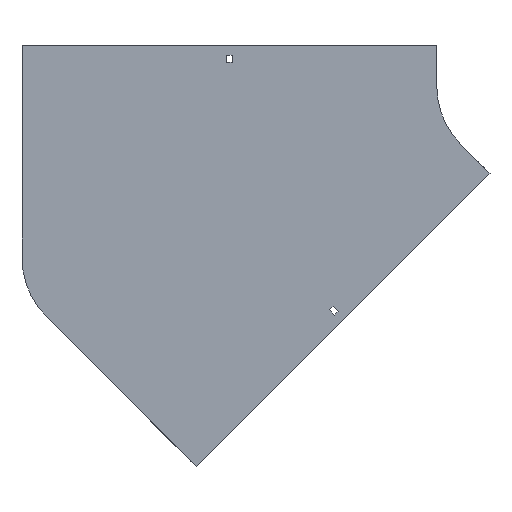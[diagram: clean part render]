
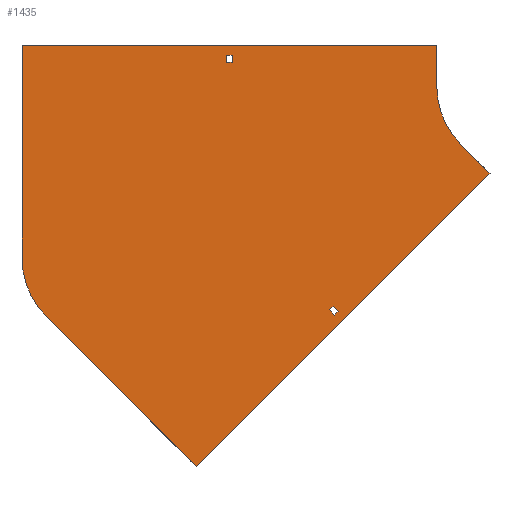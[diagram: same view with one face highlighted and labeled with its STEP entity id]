
A CAD part, front view. The second image highlights one B-rep face of the part: STEP entity #1435.
In plain terms, the highlighted planar face has unit normal (0, -1, 0).
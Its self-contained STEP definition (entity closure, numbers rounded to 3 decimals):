
#12 = DIRECTION ( 'NONE',  ( 1., 0., 0. ) ) ;
#17 = ORIENTED_EDGE ( 'NONE', *, *, #994, .F. ) ;
#18 = CARTESIAN_POINT ( 'NONE',  ( -604., 0., -208.764 ) ) ;
#50 = CARTESIAN_POINT ( 'NONE',  ( -226.097, 0., -267.11 ) ) ;
#52 = AXIS2_PLACEMENT_3D ( 'NONE', #1752, #985, #237 ) ;
#63 = EDGE_CURVE ( 'NONE', #781, #140, #623, .T. ) ;
#96 = CARTESIAN_POINT ( 'NONE',  ( -604., 0., 50. ) ) ;
#116 = CARTESIAN_POINT ( 'NONE',  ( -224.33, 0., -278.07 ) ) ;
#128 = DIRECTION ( 'NONE',  ( 0., 1., 0. ) ) ;
#132 = CARTESIAN_POINT ( 'NONE',  ( -35.355, 0., -106.066 ) ) ;
#140 = VERTEX_POINT ( 'NONE', #456 ) ;
#156 = VECTOR ( 'NONE', #1891, 1000. ) ;
#167 = EDGE_CURVE ( 'NONE', #857, #1871, #1730, .T. ) ;
#171 = CARTESIAN_POINT ( 'NONE',  ( -70.711, 0., -70.711 ) ) ;
#173 = DIRECTION ( 'NONE',  ( 0., 0., 1. ) ) ;
#210 = VECTOR ( 'NONE', #1613, 1000. ) ;
#214 = VERTEX_POINT ( 'NONE', #513 ) ;
#224 = CARTESIAN_POINT ( 'NONE',  ( -100., 0., 50. ) ) ;
#237 = DIRECTION ( 'NONE',  ( 0., 0., -1. ) ) ;
#251 = LINE ( 'NONE', #1735, #156 ) ;
#274 = ORIENTED_EDGE ( 'NONE', *, *, #1476, .F. ) ;
#276 = ORIENTED_EDGE ( 'NONE', *, *, #307, .F. ) ;
#307 = EDGE_CURVE ( 'NONE', #1333, #857, #611, .T. ) ;
#316 = CARTESIAN_POINT ( 'NONE',  ( -604., 0., -208.764 ) ) ;
#353 = EDGE_CURVE ( 'NONE', #1756, #1333, #933, .T. ) ;
#359 = VERTEX_POINT ( 'NONE', #116 ) ;
#367 = CIRCLE ( 'NONE', #1197, 100. ) ;
#392 = VECTOR ( 'NONE', #1459, 1000. ) ;
#417 = EDGE_CURVE ( 'NONE', #1803, #1204, #1751, .T. ) ;
#421 = ORIENTED_EDGE ( 'NONE', *, *, #1368, .T. ) ;
#432 = VECTOR ( 'NONE', #794, 1000. ) ;
#438 = ORIENTED_EDGE ( 'NONE', *, *, #1496, .F. ) ;
#440 = LINE ( 'NONE', #1490, #392 ) ;
#454 = EDGE_CURVE ( 'NONE', #1073, #1457, #628, .T. ) ;
#456 = CARTESIAN_POINT ( 'NONE',  ( -348.75, 0., 38. ) ) ;
#478 = ORIENTED_EDGE ( 'NONE', *, *, #63, .T. ) ;
#482 = ORIENTED_EDGE ( 'NONE', *, *, #1821, .F. ) ;
#500 = EDGE_CURVE ( 'NONE', #214, #1803, #367, .T. ) ;
#503 = CARTESIAN_POINT ( 'NONE',  ( -100., 0., 50. ) ) ;
#509 = CARTESIAN_POINT ( 'NONE',  ( 0., 0., 0. ) ) ;
#513 = CARTESIAN_POINT ( 'NONE',  ( -100., 0., 0. ) ) ;
#516 = ORIENTED_EDGE ( 'NONE', *, *, #417, .F. ) ;
#527 = ORIENTED_EDGE ( 'NONE', *, *, #454, .F. ) ;
#536 = FACE_OUTER_BOUND ( 'NONE', #620, .T. ) ;
#555 = VECTOR ( 'NONE', #1334, 1000. ) ;
#568 = EDGE_CURVE ( 'NONE', #1612, #618, #792, .T. ) ;
#582 = ORIENTED_EDGE ( 'NONE', *, *, #1058, .T. ) ;
#609 = CARTESIAN_POINT ( 'NONE',  ( -355.25, 0., 38. ) ) ;
#611 = LINE ( 'NONE', #18, #555 ) ;
#618 = VERTEX_POINT ( 'NONE', #1433 ) ;
#620 = EDGE_LOOP ( 'NONE', ( #1130, #276, #718, #274, #482, #516, #1624, #438 ) ) ;
#623 = LINE ( 'NONE', #1230, #764 ) ;
#628 = LINE ( 'NONE', #50, #1415 ) ;
#644 = EDGE_CURVE ( 'NONE', #359, #1073, #1456, .T. ) ;
#657 = DIRECTION ( 'NONE',  ( 0., -1., 0. ) ) ;
#672 = CARTESIAN_POINT ( 'NONE',  ( -70.711, 0., -70.711 ) ) ;
#691 = LINE ( 'NONE', #1304, #1318 ) ;
#710 = VECTOR ( 'NONE', #1114, 1000. ) ;
#717 = VECTOR ( 'NONE', #767, 1000. ) ;
#718 = ORIENTED_EDGE ( 'NONE', *, *, #353, .F. ) ;
#740 = VECTOR ( 'NONE', #1135, 1000. ) ;
#742 = CARTESIAN_POINT ( 'NONE',  ( -348.75, 0., 29. ) ) ;
#764 = VECTOR ( 'NONE', #12, 1000. ) ;
#767 = DIRECTION ( 'NONE',  ( 0.707, 0., -0.707 ) ) ;
#781 = VERTEX_POINT ( 'NONE', #609 ) ;
#788 = LINE ( 'NONE', #1524, #833 ) ;
#792 = LINE ( 'NONE', #1402, #1667 ) ;
#794 = DIRECTION ( 'NONE',  ( 1., 0., 0. ) ) ;
#822 = CARTESIAN_POINT ( 'NONE',  ( -348.75, 0., 29. ) ) ;
#833 = VECTOR ( 'NONE', #173, 1000. ) ;
#857 = VERTEX_POINT ( 'NONE', #1683 ) ;
#924 = DIRECTION ( 'NONE',  ( 0., 0., -1. ) ) ;
#932 = DIRECTION ( 'NONE',  ( -0.707, 0., 0.707 ) ) ;
#933 = CIRCLE ( 'NONE', #1762, 100. ) ;
#950 = CARTESIAN_POINT ( 'NONE',  ( -35.355, 0., -106.066 ) ) ;
#985 = DIRECTION ( 'NONE',  ( 0., -1., 0. ) ) ;
#994 = EDGE_CURVE ( 'NONE', #1215, #359, #251, .T. ) ;
#1058 = EDGE_CURVE ( 'NONE', #140, #1612, #1120, .T. ) ;
#1073 = VERTEX_POINT ( 'NONE', #1882 ) ;
#1114 = DIRECTION ( 'NONE',  ( 0., 0., -1. ) ) ;
#1120 = LINE ( 'NONE', #822, #1261 ) ;
#1130 = ORIENTED_EDGE ( 'NONE', *, *, #167, .F. ) ;
#1135 = DIRECTION ( 'NONE',  ( -0.707, 0., -0.707 ) ) ;
#1139 = EDGE_LOOP ( 'NONE', ( #421, #478, #582, #1203 ) ) ;
#1197 = AXIS2_PLACEMENT_3D ( 'NONE', #509, #657, #924 ) ;
#1203 = ORIENTED_EDGE ( 'NONE', *, *, #568, .T. ) ;
#1204 = VERTEX_POINT ( 'NONE', #132 ) ;
#1215 = VERTEX_POINT ( 'NONE', #1367 ) ;
#1218 = ORIENTED_EDGE ( 'NONE', *, *, #644, .F. ) ;
#1230 = CARTESIAN_POINT ( 'NONE',  ( -355.25, 0., 38. ) ) ;
#1261 = VECTOR ( 'NONE', #1913, 1000. ) ;
#1292 = CARTESIAN_POINT ( 'NONE',  ( -226.097, 0., -267.11 ) ) ;
#1304 = CARTESIAN_POINT ( 'NONE',  ( -391.737, 0., -462.448 ) ) ;
#1318 = VECTOR ( 'NONE', #1898, 1000. ) ;
#1333 = VERTEX_POINT ( 'NONE', #316 ) ;
#1334 = DIRECTION ( 'NONE',  ( 0., 0., 1. ) ) ;
#1367 = CARTESIAN_POINT ( 'NONE',  ( -230.694, 0., -271.706 ) ) ;
#1368 = EDGE_CURVE ( 'NONE', #618, #781, #788, .T. ) ;
#1402 = CARTESIAN_POINT ( 'NONE',  ( -355.25, 0., 29. ) ) ;
#1415 = VECTOR ( 'NONE', #932, 1000. ) ;
#1421 = EDGE_LOOP ( 'NONE', ( #1218, #17, #1525, #527 ) ) ;
#1433 = CARTESIAN_POINT ( 'NONE',  ( -355.25, 0., 29. ) ) ;
#1435 = ADVANCED_FACE ( 'NONE', ( #1571, #536, #1591 ), #1740, .T. ) ;
#1444 = DIRECTION ( 'NONE',  ( -1., 0., 0. ) ) ;
#1456 = LINE ( 'NONE', #1884, #210 ) ;
#1457 = VERTEX_POINT ( 'NONE', #1292 ) ;
#1459 = DIRECTION ( 'NONE',  ( -0.707, 0., -0.707 ) ) ;
#1476 = EDGE_CURVE ( 'NONE', #1727, #1756, #691, .T. ) ;
#1490 = CARTESIAN_POINT ( 'NONE',  ( -230.694, 0., -271.706 ) ) ;
#1496 = EDGE_CURVE ( 'NONE', #1871, #214, #1605, .T. ) ;
#1524 = CARTESIAN_POINT ( 'NONE',  ( -355.25, 0., 29. ) ) ;
#1525 = ORIENTED_EDGE ( 'NONE', *, *, #1561, .F. ) ;
#1561 = EDGE_CURVE ( 'NONE', #1457, #1215, #440, .T. ) ;
#1571 = FACE_BOUND ( 'NONE', #1139, .T. ) ;
#1591 = FACE_BOUND ( 'NONE', #1421, .T. ) ;
#1596 = CARTESIAN_POINT ( 'NONE',  ( -391.737, 0., -462.448 ) ) ;
#1605 = LINE ( 'NONE', #503, #710 ) ;
#1612 = VERTEX_POINT ( 'NONE', #742 ) ;
#1613 = DIRECTION ( 'NONE',  ( 0.707, 0., 0.707 ) ) ;
#1615 = CARTESIAN_POINT ( 'NONE',  ( -504., 0., -208.764 ) ) ;
#1624 = ORIENTED_EDGE ( 'NONE', *, *, #500, .F. ) ;
#1667 = VECTOR ( 'NONE', #1444, 1000. ) ;
#1673 = DIRECTION ( 'NONE',  ( 0., 0., 1. ) ) ;
#1683 = CARTESIAN_POINT ( 'NONE',  ( -604., 0., 50. ) ) ;
#1716 = LINE ( 'NONE', #950, #740 ) ;
#1727 = VERTEX_POINT ( 'NONE', #1596 ) ;
#1730 = LINE ( 'NONE', #96, #432 ) ;
#1733 = CARTESIAN_POINT ( 'NONE',  ( -574.711, 0., -279.474 ) ) ;
#1735 = CARTESIAN_POINT ( 'NONE',  ( -230.694, 0., -271.706 ) ) ;
#1740 = PLANE ( 'NONE',  #52 ) ;
#1751 = LINE ( 'NONE', #171, #717 ) ;
#1752 = CARTESIAN_POINT ( 'NONE',  ( 0., 0., 0. ) ) ;
#1756 = VERTEX_POINT ( 'NONE', #1733 ) ;
#1762 = AXIS2_PLACEMENT_3D ( 'NONE', #1615, #128, #1673 ) ;
#1803 = VERTEX_POINT ( 'NONE', #672 ) ;
#1821 = EDGE_CURVE ( 'NONE', #1204, #1727, #1716, .T. ) ;
#1871 = VERTEX_POINT ( 'NONE', #224 ) ;
#1882 = CARTESIAN_POINT ( 'NONE',  ( -219.733, 0., -273.474 ) ) ;
#1884 = CARTESIAN_POINT ( 'NONE',  ( -224.33, 0., -278.07 ) ) ;
#1891 = DIRECTION ( 'NONE',  ( 0.707, 0., -0.707 ) ) ;
#1898 = DIRECTION ( 'NONE',  ( -0.707, 0., 0.707 ) ) ;
#1913 = DIRECTION ( 'NONE',  ( 0., 0., -1. ) ) ;
